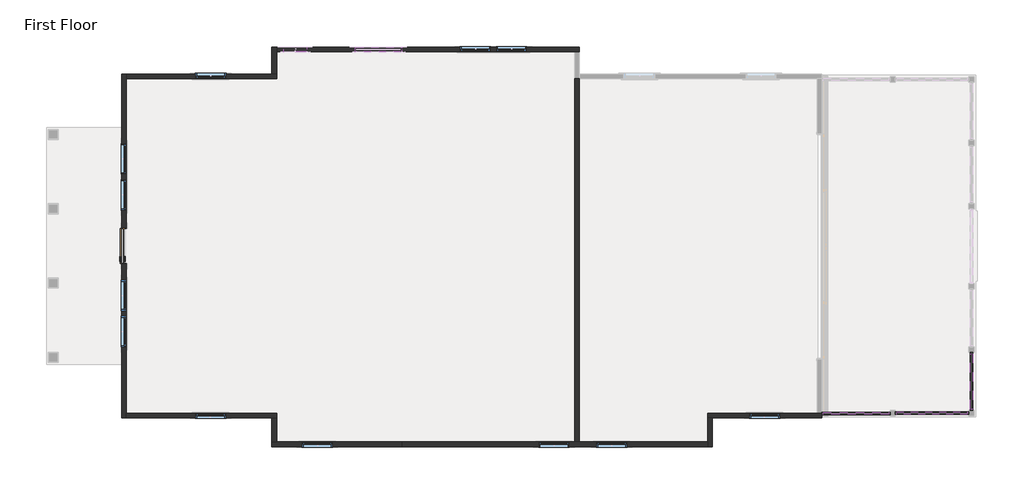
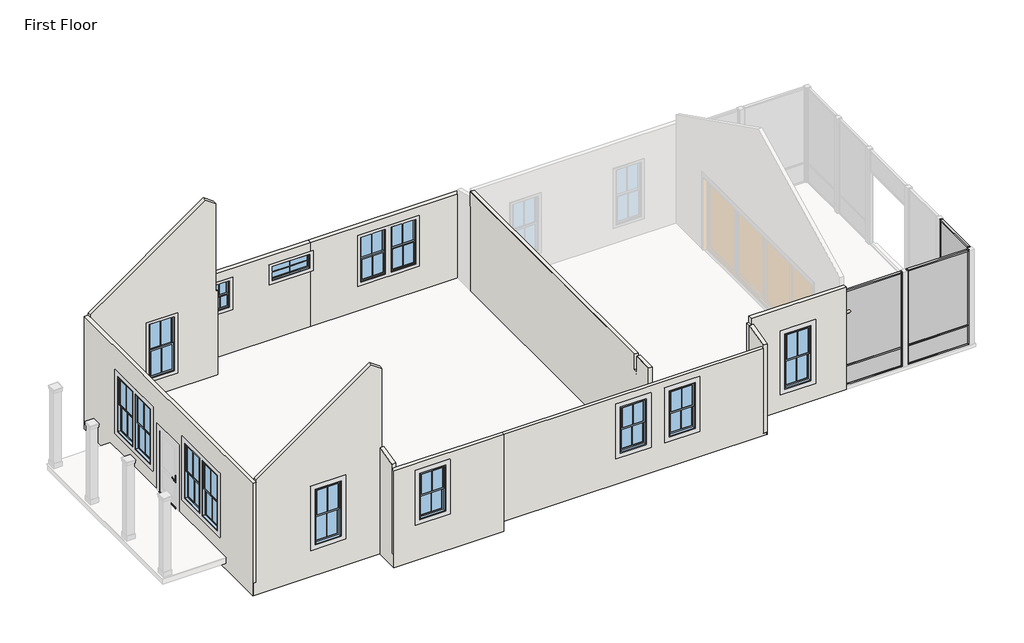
# One storey, part 1 of 3: 21 members, 14 windows, 12 walls, 6 plates, 1 door.
"""IFC4 building model written with IfcOpenShell, lengths in millimetres."""

from ifc_helpers import new_model, si_unit, origin, place, context, project, spatial, faceted_brep, transform, mapped, element, save
from components import door_exterior_shared_slab_3068_cdd7a35b, rectangular_mullion_screen_frame_f38c08a8, rectangular_mullion_screen_frame_8d831df1, rectangular_mullion_screen_frame_511fec39, rectangular_mullion_screen_frame_f99cffb0, rectangular_mullion_screen_frame_c8940eb0, rectangular_mullion_screen_frame_2fc61970, rectangular_mullion_screen_frame_7cee8ea0, rectangular_mullion_screen_frame_e9f309df, system_panel_screen_9b5d54dd, system_panel_screen_150f36fd, system_panel_screen_4a7d9bef, system_panel_screen_32642744, system_panel_screen_d6b4d12b, system_panel_screen_7c602fd6, window_fixed_w_trim_4018_577f739d, window_single_hung_2030_9b69fde6, window_single_hung_2850_d8c76df1, window_single_hung_2860_a2395dbf

model = new_model("IFC4")

# Units and contexts
model_context = context("Model", 3, world=origin())
ifc_project = project(units=[si_unit("LENGTHUNIT", "METRE", prefix="MILLI")], contexts=[model_context])

# Site, building, storey
site = spatial("IfcSite", under=ifc_project)
building = spatial("IfcBuilding", under=site)
storey = spatial("IfcBuildingStorey", under=building, Name="First Floor", Elevation=0.0)

# Door
placement = place(None, origin())
door_exterior_shared_slab_3068_shape = door_exterior_shared_slab_3068_cdd7a35b(model_context)
element("IfcDoor", 1, ObjectType="Door-Exterior-Shared Slab : 3068", at=placement, inside=storey, context=model_context, shape_type="MappedRepresentation", body=[
    mapped(door_exterior_shared_slab_3068_shape, transform((5220.8670833, 10722.6499284, 0.0), x_axis=(0.0, -1.0, 0.0), y_axis=(1.0, 0.0, 0.0), z_axis=(0.0, 0.0, 1.0))),
])

# Members
rectangular_mullion_screen_frame_shape = rectangular_mullion_screen_frame_f38c08a8(model_context)
element("IfcMember", 2, ObjectType="Rectangular Mullion : Screen Frame", at=placement, inside=storey, context=model_context, shape_type="MappedRepresentation", body=[
    mapped(rectangular_mullion_screen_frame_shape, transform((27482.4811833, 6303.0499284, 3117.85), x_axis=(0.0, 0.0, 1.0), y_axis=(0.0, -1.0, 0.0), z_axis=(1.0, 0.0, 0.0))),
])
element("IfcMember", 3, ObjectType="Rectangular Mullion : Screen Frame", at=placement, inside=storey, context=model_context, shape_type="MappedRepresentation", body=[
    mapped(rectangular_mullion_screen_frame_shape, transform((25623.9123833, 6303.0499284, 0.0), x_axis=(0.0, 0.0, -1.0), y_axis=(0.0, -1.0, 0.0), z_axis=(-1.0, 0.0, 0.0))),
])
rectangular_mullion_screen_frame_2_shape = rectangular_mullion_screen_frame_8d831df1(model_context)
element("IfcMember", 4, ObjectType="Rectangular Mullion : Screen Frame", at=placement, inside=storey, context=model_context, shape_type="MappedRepresentation", body=[
    mapped(rectangular_mullion_screen_frame_2_shape, transform((27590.4311833, 7871.4999284, 3117.85), x_axis=(0.0, 0.0, 1.0), y_axis=(1.0, 0.0, 0.0), z_axis=(0.0, 1.0, 0.0))),
])
element("IfcMember", 5, ObjectType="Rectangular Mullion : Screen Frame", at=placement, inside=storey, context=model_context, shape_type="MappedRepresentation", body=[
    mapped(rectangular_mullion_screen_frame_2_shape, transform((27590.4311833, 6410.9999284, 0.0), x_axis=(0.0, 0.0, -1.0), y_axis=(1.0, 0.0, 0.0), z_axis=(0.0, -1.0, 0.0))),
])
rectangular_mullion_screen_frame_3_shape = rectangular_mullion_screen_frame_511fec39(model_context)
element("IfcMember", 6, ObjectType="Rectangular Mullion : Screen Frame", at=placement, inside=storey, context=model_context, shape_type="MappedRepresentation", body=[
    mapped(rectangular_mullion_screen_frame_3_shape, transform((25408.0123833, 6298.2874284, 3117.85), x_axis=(0.0, 0.0, 1.0), y_axis=(0.0, -1.0, 0.0), z_axis=(1.0, 0.0, 0.0))),
])
element("IfcMember", 7, ObjectType="Rectangular Mullion : Screen Frame", at=placement, inside=storey, context=model_context, shape_type="MappedRepresentation", body=[
    mapped(rectangular_mullion_screen_frame_3_shape, transform((23680.3170833, 6298.2874284, 0.0), x_axis=(0.0, 0.0, -1.0), y_axis=(0.0, -1.0, 0.0), z_axis=(-1.0, 0.0, 0.0))),
])
rectangular_mullion_screen_frame_4_shape = rectangular_mullion_screen_frame_f99cffb0(model_context)
element("IfcMember", 8, ObjectType="Rectangular Mullion : Screen Frame", at=placement, inside=storey, context=model_context, shape_type="MappedRepresentation", body=[
    mapped(rectangular_mullion_screen_frame_4_shape, transform((27590.4311833, 7871.4999284, 632.46), x_axis=(0.0, 0.0, 1.0), y_axis=(1.0, 0.0, 0.0), z_axis=(0.0, 1.0, 0.0))),
])
rectangular_mullion_screen_frame_5_shape = rectangular_mullion_screen_frame_c8940eb0(model_context)
element("IfcMember", 9, ObjectType="Rectangular Mullion : Screen Frame", at=placement, inside=storey, context=model_context, shape_type="MappedRepresentation", body=[
    mapped(rectangular_mullion_screen_frame_5_shape, transform((25446.1123833, 6298.2874284, 0.0), x_axis=(1.0, 0.0, 0.0), y_axis=(0.0, -1.0, 0.0), z_axis=(0.0, 0.0, -1.0))),
])
element("IfcMember", 10, ObjectType="Rectangular Mullion : Screen Frame", at=placement, inside=storey, context=model_context, shape_type="MappedRepresentation", body=[
    mapped(rectangular_mullion_screen_frame_5_shape, transform((27520.5811833, 6303.0499284, 0.0), x_axis=(1.0, 0.0, 0.0), y_axis=(0.0, -1.0, 0.0), z_axis=(0.0, 0.0, -1.0))),
])
element("IfcMember", 11, ObjectType="Rectangular Mullion : Screen Frame", at=placement, inside=storey, context=model_context, shape_type="MappedRepresentation", body=[
    mapped(rectangular_mullion_screen_frame_5_shape, transform((27590.4311833, 7909.5999284, 0.0), x_axis=(0.0, 1.0, 0.0), y_axis=(1.0, 0.0, 0.0), z_axis=(0.0, 0.0, -1.0))),
])
rectangular_mullion_screen_frame_6_shape = rectangular_mullion_screen_frame_2fc61970(model_context)
element("IfcMember", 12, ObjectType="Rectangular Mullion : Screen Frame", at=placement, inside=storey, context=model_context, shape_type="MappedRepresentation", body=[
    mapped(rectangular_mullion_screen_frame_6_shape, transform((23642.2170833, 6298.2874284, 3117.85), x_axis=(-1.0, 0.0, 0.0), y_axis=(0.0, -1.0, 0.0), z_axis=(0.0, 0.0, 1.0))),
])
element("IfcMember", 13, ObjectType="Rectangular Mullion : Screen Frame", at=placement, inside=storey, context=model_context, shape_type="MappedRepresentation", body=[
    mapped(rectangular_mullion_screen_frame_6_shape, transform((25585.8123833, 6303.0499284, 3117.85), x_axis=(-1.0, 0.0, 0.0), y_axis=(0.0, -1.0, 0.0), z_axis=(0.0, 0.0, 1.0))),
])
element("IfcMember", 14, ObjectType="Rectangular Mullion : Screen Frame", at=placement, inside=storey, context=model_context, shape_type="MappedRepresentation", body=[
    mapped(rectangular_mullion_screen_frame_6_shape, transform((27590.4311833, 6372.8999284, 3117.85), x_axis=(0.0, -1.0, 0.0), y_axis=(1.0, 0.0, 0.0), z_axis=(0.0, 0.0, 1.0))),
])
element("IfcMember", 15, ObjectType="Rectangular Mullion : Screen Frame", at=placement, inside=storey, context=model_context, shape_type="MappedRepresentation", body=[
    mapped(rectangular_mullion_screen_frame_6_shape, transform((27590.4311833, 7909.5999284, 632.46), x_axis=(0.0, 1.0, 0.0), y_axis=(1.0, 0.0, 0.0), z_axis=(0.0, 0.0, -1.0))),
])
element("IfcMember", 16, ObjectType="Rectangular Mullion : Screen Frame", at=placement, inside=storey, context=model_context, shape_type="MappedRepresentation", body=[
    mapped(rectangular_mullion_screen_frame_6_shape, transform((27520.5811833, 6303.0499284, 632.46), x_axis=(1.0, 0.0, 0.0), y_axis=(0.0, -1.0, 0.0), z_axis=(0.0, 0.0, -1.0))),
])
element("IfcMember", 17, ObjectType="Rectangular Mullion : Screen Frame", at=placement, inside=storey, context=model_context, shape_type="MappedRepresentation", body=[
    mapped(rectangular_mullion_screen_frame_6_shape, transform((25446.1123833, 6298.2874284, 632.46), x_axis=(1.0, 0.0, 0.0), y_axis=(0.0, -1.0, 0.0), z_axis=(0.0, 0.0, -1.0))),
])
element("IfcMember", 18, ObjectType="Rectangular Mullion : Screen Frame", at=placement, inside=storey, context=model_context, shape_type="MappedRepresentation", body=[
    mapped(rectangular_mullion_screen_frame_5_shape, transform((27590.4311833, 6372.8999284, 632.46), x_axis=(0.0, -1.0, 0.0), y_axis=(1.0, 0.0, 0.0), z_axis=(0.0, 0.0, 1.0))),
])
element("IfcMember", 19, ObjectType="Rectangular Mullion : Screen Frame", at=placement, inside=storey, context=model_context, shape_type="MappedRepresentation", body=[
    mapped(rectangular_mullion_screen_frame_5_shape, transform((25585.8123833, 6303.0499284, 632.46), x_axis=(-1.0, 0.0, 0.0), y_axis=(0.0, -1.0, 0.0), z_axis=(0.0, 0.0, 1.0))),
])
element("IfcMember", 20, ObjectType="Rectangular Mullion : Screen Frame", at=placement, inside=storey, context=model_context, shape_type="MappedRepresentation", body=[
    mapped(rectangular_mullion_screen_frame_5_shape, transform((23642.2170833, 6298.2874284, 632.46), x_axis=(-1.0, 0.0, 0.0), y_axis=(0.0, -1.0, 0.0), z_axis=(0.0, 0.0, 1.0))),
])
rectangular_mullion_screen_frame_7_shape = rectangular_mullion_screen_frame_7cee8ea0(model_context)
element("IfcMember", 21, ObjectType="Rectangular Mullion : Screen Frame", at=placement, inside=storey, context=model_context, shape_type="MappedRepresentation", body=[
    mapped(rectangular_mullion_screen_frame_7_shape, transform((27482.4811833, 6303.0499284, 632.46), x_axis=(0.0, 0.0, 1.0), y_axis=(0.0, -1.0, 0.0), z_axis=(1.0, 0.0, 0.0))),
])
rectangular_mullion_screen_frame_8_shape = rectangular_mullion_screen_frame_e9f309df(model_context)
element("IfcMember", 22, ObjectType="Rectangular Mullion : Screen Frame", at=placement, inside=storey, context=model_context, shape_type="MappedRepresentation", body=[
    mapped(rectangular_mullion_screen_frame_8_shape, transform((25408.0123833, 6298.2874284, 632.46), x_axis=(0.0, 0.0, 1.0), y_axis=(0.0, -1.0, 0.0), z_axis=(1.0, 0.0, 0.0))),
])

# Plates
system_panel_screen_shape = system_panel_screen_9b5d54dd(model_context)
element("IfcPlate", 23, ObjectType="System Panel : Screen", at=placement, inside=storey, context=model_context, shape_type="MappedRepresentation", body=[
    mapped(system_panel_screen_shape, transform((27590.4311833, 7141.2499284, 38.1), x_axis=(0.0, 1.0, 0.0), y_axis=(-1.0, 0.0, 0.0), z_axis=(0.0, 0.0, 1.0))),
])
system_panel_screen_2_shape = system_panel_screen_150f36fd(model_context)
element("IfcPlate", 24, ObjectType="System Panel : Screen", at=placement, inside=storey, context=model_context, shape_type="MappedRepresentation", body=[
    mapped(system_panel_screen_2_shape, transform((27590.4311833, 7141.2499284, 651.51), x_axis=(0.0, 1.0, 0.0), y_axis=(-1.0, 0.0, 0.0), z_axis=(0.0, 0.0, 1.0))),
])
system_panel_screen_3_shape = system_panel_screen_4a7d9bef(model_context)
element("IfcPlate", 25, ObjectType="System Panel : Screen", at=placement, inside=storey, context=model_context, shape_type="MappedRepresentation", body=[
    mapped(system_panel_screen_3_shape, transform((24544.1647333, 6298.2874284, 38.1), x_axis=(1.0, 0.0, 0.0), y_axis=(0.0, 1.0, 0.0), z_axis=(0.0, 0.0, 1.0))),
])
system_panel_screen_4_shape = system_panel_screen_32642744(model_context)
element("IfcPlate", 26, ObjectType="System Panel : Screen", at=placement, inside=storey, context=model_context, shape_type="MappedRepresentation", body=[
    mapped(system_panel_screen_4_shape, transform((24544.1647333, 6298.2874284, 651.51), x_axis=(1.0, 0.0, 0.0), y_axis=(0.0, 1.0, 0.0), z_axis=(0.0, 0.0, 1.0))),
])
system_panel_screen_5_shape = system_panel_screen_d6b4d12b(model_context)
element("IfcPlate", 27, ObjectType="System Panel : Screen", at=placement, inside=storey, context=model_context, shape_type="MappedRepresentation", body=[
    mapped(system_panel_screen_5_shape, transform((26553.1967833, 6303.0499284, 38.1), x_axis=(1.0, 0.0, 0.0), y_axis=(0.0, 1.0, 0.0), z_axis=(0.0, 0.0, 1.0))),
])
system_panel_screen_6_shape = system_panel_screen_7c602fd6(model_context)
element("IfcPlate", 28, ObjectType="System Panel : Screen", at=placement, inside=storey, context=model_context, shape_type="MappedRepresentation", body=[
    mapped(system_panel_screen_6_shape, transform((26553.1967833, 6303.0499284, 651.51), x_axis=(1.0, 0.0, 0.0), y_axis=(0.0, 1.0, 0.0), z_axis=(0.0, 0.0, 1.0))),
])

# Walls
element("IfcWall", 29, ObjectType="Exterior 4” Hardie", at=placement, inside=storey, context=model_context, shape_type="Brep", body=[
    faceted_brep([(5284.3670833, 15262.8999284, 3302.0), (5284.3670833, 6182.3999284, 3302.0), (5284.3670833, 6182.3999284, 0.0), (5284.3670833, 6303.0499284, 0.0), (5284.3670833, 10240.0499284, 0.0), (5284.3670833, 10240.0499284, 2057.4), (5284.3670833, 11205.2499284, 2057.4), (5284.3670833, 11205.2499284, 0.0), (5284.3670833, 15142.2499284, 0.0), (5284.3670833, 15262.8999284, 0.0), (5284.3670833, 11663.7707284, 2438.4), (5284.3670833, 12476.5707284, 2438.4), (5284.3670833, 12476.5707284, 609.6), (5284.3670833, 11663.7707284, 609.6), (5284.3670833, 12616.2707284, 2438.4), (5284.3670833, 13429.0707284, 2438.4), (5284.3670833, 13429.0707284, 609.6), (5284.3670833, 12616.2707284, 609.6), (5284.3670833, 9007.2355284, 2438.4), (5284.3670833, 9820.0355284, 2438.4), (5284.3670833, 9820.0355284, 609.6), (5284.3670833, 9007.2355284, 609.6), (5284.3670833, 8054.7355284, 2438.4), (5284.3670833, 8867.5355284, 2438.4), (5284.3670833, 8867.5355284, 609.6), (5284.3670833, 8054.7355284, 609.6), (5163.7170833, 6182.3999284, 3302.0), (5163.7170833, 15262.8999284, 3302.0), (5163.7170833, 15262.8999284, -406.4), (5163.7170833, 6182.3999284, -406.4), (5163.7170833, 10240.0499284, 2057.4), (5163.7170833, 10240.0499284, 0.0), (5163.7170833, 11205.2499284, 0.0), (5163.7170833, 11205.2499284, 2057.4), (5163.7170833, 11663.7707284, 2438.4), (5163.7170833, 11663.7707284, 609.6), (5163.7170833, 12476.5707284, 609.6), (5163.7170833, 12476.5707284, 2438.4), (5163.7170833, 12616.2707284, 2438.4), (5163.7170833, 12616.2707284, 609.6), (5163.7170833, 13429.0707284, 609.6), (5163.7170833, 13429.0707284, 2438.4), (5163.7170833, 9007.2355284, 2438.4), (5163.7170833, 9007.2355284, 609.6), (5163.7170833, 9820.0355284, 609.6), (5163.7170833, 9820.0355284, 2438.4), (5163.7170833, 8054.7355284, 2438.4), (5163.7170833, 8054.7355284, 609.6), (5163.7170833, 8867.5355284, 609.6), (5163.7170833, 8867.5355284, 2438.4), (5182.7670833, 6182.3999284, 0.0), (5182.7670833, 6201.4499284, 0.0), (5182.7670833, 10240.0499284, 0.0), (5182.7670833, 15262.8999284, 0.0), (5182.7670833, 11205.2499284, 0.0), (5182.7670833, 15243.8499284, 0.0), (5182.7670833, 6182.3999284, -406.4), (5182.7670833, 6201.4499284, -406.4), (5182.7670833, 15243.8499284, -406.4), (5182.7670833, 15262.8999284, -406.4)], [[[0, 1, 2, 3, 4, 5, 6, 7, 8, 9], [10, 11, 12, 13], [14, 15, 16, 17], [18, 19, 20, 21], [22, 23, 24, 25]], [[26, 27, 28, 29], [30, 31, 32, 33], [34, 35, 36, 37], [38, 39, 40, 41], [42, 43, 44, 45], [46, 47, 48, 49]], [[1, 0, 27, 26]], [[2, 50, 51, 52, 4, 3]], [[53, 9, 8, 7, 54, 55]], [[56, 57, 58, 59, 53, 55, 54, 52, 51, 50]], [[0, 9, 53, 59, 28, 27]], [[2, 1, 26, 29, 56, 50]], [[29, 28, 59, 58, 57, 56]], [[52, 31, 30, 5, 4]], [[5, 30, 33, 6]], [[6, 33, 32, 54, 7]], [[31, 52, 54, 32]], [[35, 34, 10, 13]], [[36, 35, 13, 12]], [[37, 36, 12, 11]], [[34, 37, 11, 10]], [[39, 38, 14, 17]], [[40, 39, 17, 16]], [[41, 40, 16, 15]], [[38, 41, 15, 14]], [[43, 42, 18, 21]], [[44, 43, 21, 20]], [[45, 44, 20, 19]], [[42, 45, 19, 18]], [[47, 46, 22, 25]], [[48, 47, 25, 24]], [[49, 48, 24, 23]], [[46, 49, 23, 22]]]),
])
element("IfcWall", 30, ObjectType="Exterior 4” Hardie", at=placement, inside=storey, context=model_context, shape_type="Brep", body=[
    faceted_brep([(5284.3670833, 15142.2499284, 0.0), (9246.7670833, 15142.2499284, 0.0), (9246.7670833, 15142.2499284, 2794.0), (9186.4420833, 15142.2499284, 2794.0), (9186.4420833, 15142.2499284, 3081.3375), (9186.4420833, 15142.2499284, 5683.646875), (8865.7670833, 15142.2499284, 5910.7916667), (5284.3670833, 15142.2499284, 3373.9666667), (7103.6420833, 15142.2499284, 2438.4), (7916.4420833, 15142.2499284, 2438.4), (7916.4420833, 15142.2499284, 609.6), (7103.6420833, 15142.2499284, 609.6), (9186.4420833, 15262.8999284, 5683.646875), (9186.4420833, 15262.8999284, 3081.3375), (9186.4420833, 15262.8999284, 2794.0), (9246.7670833, 15262.8999284, 2794.0), (9246.7670833, 15262.8999284, 2717.8), (9246.7670833, 15262.8999284, 0.0), (9145.1670833, 15262.8999284, 0.0), (9145.1670833, 15262.8999284, -406.4), (9126.1170833, 15262.8999284, -406.4), (5182.7670833, 15262.8999284, -406.4), (5182.7670833, 15262.8999284, 0.0), (5284.3670833, 15262.8999284, 0.0), (5284.3670833, 15262.8999284, 3302.0), (5284.3670833, 15262.8999284, 3373.9666667), (8865.7670833, 15262.8999284, 5910.7916667), (7103.6420833, 15262.8999284, 2438.4), (7103.6420833, 15262.8999284, 609.6), (7916.4420833, 15262.8999284, 609.6), (7916.4420833, 15262.8999284, 2438.4), (5284.3670833, 15243.8499284, 0.0), (9145.1670833, 15243.8499284, 0.0), (5182.7670833, 15243.8499284, 0.0), (5182.7670833, 15243.8499284, -406.4), (9145.1670833, 15243.8499284, -406.4)], [[[0, 1, 2, 3, 4, 5, 6, 7], [8, 9, 10, 11]], [[12, 13, 14, 15, 16, 17, 18, 19, 20, 21, 22, 23, 24, 25, 26], [27, 28, 29, 30]], [[1, 0, 31, 32, 18, 17]], [[32, 31, 33, 34, 35]], [[0, 7, 25, 24, 23, 31]], [[21, 20, 19, 35, 34]], [[33, 31, 23, 22]], [[21, 34, 33, 22]], [[12, 5, 4, 3, 14, 13]], [[14, 3, 2, 15]], [[2, 1, 17, 16, 15]], [[18, 32, 35, 19]], [[25, 7, 6, 26]], [[5, 12, 26, 6]], [[28, 27, 8, 11]], [[29, 28, 11, 10]], [[30, 29, 10, 9]], [[27, 30, 9, 8]]]),
])
element("IfcWall", 31, ObjectType="Exterior 4” Hardie", at=placement, inside=storey, context=model_context, shape_type="Brep", body=[
    faceted_brep([(9246.7670833, 15262.8999284, 0.0), (9246.7670833, 15853.4499284, 0.0), (9246.7670833, 15974.0999284, 0.0), (9246.7670833, 15974.0999284, 2794.0), (9246.7670833, 15974.0999284, 2903.5375), (9246.7670833, 15262.8999284, 3081.3375), (9246.7670833, 15262.8999284, 2794.0), (9126.1170833, 15262.8999284, -406.4), (9126.1170833, 15262.8999284, 3081.3375), (9126.1170833, 15974.0999284, 2903.5375), (9126.1170833, 15974.0999284, -406.4), (9145.1670833, 15262.8999284, 0.0), (9145.1670833, 15955.0499284, 0.0), (9145.1670833, 15974.0999284, 0.0), (9145.1670833, 15262.8999284, -406.4), (9145.1670833, 15955.0499284, -406.4), (9145.1670833, 15974.0999284, -406.4)], [[[0, 1, 2, 3, 4, 5, 6]], [[7, 8, 9, 10]], [[2, 1, 0, 11, 12, 13]], [[13, 12, 11, 14, 15, 16]], [[0, 6, 5, 8, 7, 14, 11]], [[14, 7, 10, 16, 15]], [[4, 3, 2, 13, 16, 10, 9]], [[5, 4, 9, 8]]]),
])
element("IfcWall", 32, ObjectType="Exterior 4” Hardie", at=placement, inside=storey, context=model_context, shape_type="Brep", body=[
    faceted_brep([(9246.7670833, 15853.4499284, 0.0), (12548.7670833, 15853.4499284, 0.0), (12548.7670833, 15853.4499284, 1930.4), (11332.0054833, 15853.4499284, 1930.4), (11332.0054833, 15853.4499284, 2438.4), (12548.7670833, 15853.4499284, 2438.4), (12548.7670833, 15853.4499284, 2794.0), (9246.7670833, 15853.4499284, 2794.0), (9438.2068833, 15853.4499284, 1524.0), (9438.2068833, 15853.4499284, 2438.4), (10047.8068833, 15853.4499284, 2438.4), (10047.8068833, 15853.4499284, 1524.0), (9246.7670833, 15974.0999284, 2794.0), (12548.7670833, 15974.0999284, 2794.0), (12548.7670833, 15974.0999284, 2438.4), (11332.0054833, 15974.0999284, 2438.4), (11332.0054833, 15974.0999284, 1930.4), (12548.7670833, 15974.0999284, 1930.4), (12548.7670833, 15974.0999284, -76.2), (12548.7670833, 15974.0999284, -406.4), (9145.1670833, 15974.0999284, -406.4), (9145.1670833, 15974.0999284, 0.0), (9246.7670833, 15974.0999284, 0.0), (9438.2068833, 15974.0999284, 2438.4), (9438.2068833, 15974.0999284, 1524.0), (10047.8068833, 15974.0999284, 1524.0), (10047.8068833, 15974.0999284, 2438.4), (12548.7670833, 15955.0499284, 0.0), (12548.7670833, 15955.0499284, -76.2), (12548.7670833, 15955.0499284, -406.4), (9246.7670833, 15955.0499284, 0.0), (9145.1670833, 15955.0499284, 0.0), (9145.1670833, 15955.0499284, -406.4)], [[[0, 1, 2, 3, 4, 5, 6, 7], [8, 9, 10, 11]], [[12, 13, 14, 15, 16, 17, 18, 19, 20, 21, 22], [23, 24, 25, 26]], [[1, 27, 28, 29, 19, 18, 17, 2]], [[13, 6, 5, 14]], [[7, 6, 13, 12]], [[1, 0, 30, 27]], [[27, 30, 31, 32, 29, 28]], [[0, 7, 12, 22, 30]], [[19, 29, 32, 20]], [[31, 30, 22, 21]], [[20, 32, 31, 21]], [[23, 9, 8, 24]], [[24, 8, 11, 25]], [[25, 11, 10, 26]], [[9, 23, 26, 10]], [[16, 3, 2, 17]], [[3, 16, 15, 4]], [[4, 15, 14, 5]]]),
])
element("IfcWall", 33, ObjectType="Exterior 4” Hardie", at=placement, inside=storey, context=model_context, shape_type="Brep", body=[
    faceted_brep([(23642.2170833, 6303.0499284, 0.0), (23521.5670833, 6303.0499284, 0.0), (20625.9670833, 6303.0499284, 0.0), (20625.9670833, 6303.0499284, 2794.0), (20625.9670833, 6303.0499284, 3094.0375), (20686.2920833, 6303.0499284, 3094.0375), (20686.2920833, 6303.0499284, 3302.0), (23642.2170833, 6303.0499284, 3302.0), (22540.4920833, 6303.0499284, 2438.4), (21727.6920833, 6303.0499284, 2438.4), (21727.6920833, 6303.0499284, 609.6), (22540.4920833, 6303.0499284, 609.6), (23642.2170833, 6182.3999284, 3302.0), (20686.2920833, 6182.3999284, 3302.0), (20686.2920833, 6182.3999284, 3094.0375), (20625.9670833, 6182.3999284, 3094.0375), (20625.9670833, 6182.3999284, 2717.8), (20625.9670833, 6182.3999284, 0.0), (20727.5670833, 6182.3999284, 0.0), (20727.5670833, 6182.3999284, -76.2), (20746.6170833, 6182.3999284, -76.2), (23642.2170833, 6182.3999284, -76.2), (22540.4920833, 6182.3999284, 2438.4), (22540.4920833, 6182.3999284, 609.6), (21727.6920833, 6182.3999284, 609.6), (21727.6920833, 6182.3999284, 2438.4), (23642.2170833, 6201.4499284, 0.0), (20727.5670833, 6201.4499284, 0.0), (23642.2170833, 6201.4499284, -76.2), (20727.5670833, 6201.4499284, -76.2)], [[[0, 1, 2, 3, 4, 5, 6, 7], [8, 9, 10, 11]], [[12, 13, 14, 15, 16, 17, 18, 19, 20, 21], [22, 23, 24, 25]], [[7, 6, 13, 12]], [[2, 1, 0, 26, 27, 18, 17]], [[26, 28, 29, 27]], [[0, 7, 12, 21, 28, 26]], [[28, 21, 20, 19, 29]], [[13, 6, 5, 14]], [[14, 5, 4, 15]], [[15, 4, 3, 2, 17, 16]], [[18, 27, 29, 19]], [[23, 22, 8, 11]], [[24, 23, 11, 10]], [[25, 24, 10, 9]], [[22, 25, 9, 8]]]),
])
element("IfcWall", 34, ObjectType="Exterior 4” Hardie", at=placement, inside=storey, context=model_context, shape_type="Brep", body=[
    faceted_brep([(20625.9670833, 6182.3999284, 0.0), (20625.9670833, 5541.0499284, 0.0), (20625.9670833, 5420.3999284, 0.0), (20625.9670833, 5420.3999284, 2794.0), (20625.9670833, 5420.3999284, 2903.5375), (20625.9670833, 6182.3999284, 3094.0375), (20746.6170833, 6182.3999284, -76.2), (20746.6170833, 6182.3999284, 3094.0375), (20746.6170833, 5420.3999284, 2903.5375), (20746.6170833, 5420.3999284, -76.2), (20727.5670833, 6182.3999284, 0.0), (20727.5670833, 5439.4499284, 0.0), (20727.5670833, 5420.3999284, 0.0), (20727.5670833, 6182.3999284, -76.2), (20727.5670833, 5439.4499284, -76.2), (20727.5670833, 5420.3999284, -76.2)], [[[0, 1, 2, 3, 4, 5]], [[6, 7, 8, 9]], [[2, 1, 0, 10, 11, 12]], [[12, 11, 10, 13, 14, 15]], [[0, 5, 7, 6, 13, 10]], [[13, 6, 9, 15, 14]], [[4, 3, 2, 12, 15, 9, 8]], [[5, 4, 8, 7]]]),
])
element("IfcWall", 35, ObjectType="Exterior 4” Hardie", at=placement, inside=storey, context=model_context, shape_type="Brep", body=[
    faceted_brep([(20625.9670833, 5541.0499284, 0.0), (17235.0670833, 5541.0499284, 0.0), (17120.7670833, 5541.0499284, 0.0), (12548.7670833, 5541.0499284, 0.0), (12548.7670833, 5541.0499284, 2794.0), (20625.9670833, 5541.0499284, 2794.0), (18501.8920833, 5541.0499284, 2438.4), (17689.0920833, 5541.0499284, 2438.4), (17689.0920833, 5541.0499284, 914.4), (18501.8920833, 5541.0499284, 914.4), (16978.5016833, 5541.0499284, 2438.4), (16165.7016833, 5541.0499284, 2438.4), (16165.7016833, 5541.0499284, 914.4), (16978.5016833, 5541.0499284, 914.4), (12548.7670833, 5420.3999284, 2794.0), (12548.7670833, 5420.3999284, -76.2), (20727.5670833, 5420.3999284, -76.2), (20727.5670833, 5420.3999284, 0.0), (20625.9670833, 5420.3999284, 0.0), (20625.9670833, 5420.3999284, 2794.0), (18501.8920833, 5420.3999284, 2438.4), (18501.8920833, 5420.3999284, 914.4), (17689.0920833, 5420.3999284, 914.4), (17689.0920833, 5420.3999284, 2438.4), (16978.5016833, 5420.3999284, 2438.4), (16978.5016833, 5420.3999284, 914.4), (16165.7016833, 5420.3999284, 914.4), (16165.7016833, 5420.3999284, 2438.4), (12548.7670833, 5439.4499284, 0.0), (12548.7670833, 5439.4499284, -76.2), (20625.9670833, 5439.4499284, 0.0), (20727.5670833, 5439.4499284, 0.0), (20727.5670833, 5439.4499284, -76.2)], [[[0, 1, 2, 3, 4, 5], [6, 7, 8, 9], [10, 11, 12, 13]], [[14, 15, 16, 17, 18, 19], [20, 21, 22, 23], [24, 25, 26, 27]], [[4, 3, 28, 29, 15, 14]], [[5, 4, 14, 19]], [[3, 2, 1, 0, 30, 28]], [[28, 30, 31, 32, 29]], [[0, 5, 19, 18, 30]], [[16, 15, 29, 32]], [[31, 30, 18, 17]], [[16, 32, 31, 17]], [[21, 20, 6, 9]], [[22, 21, 9, 8]], [[23, 22, 8, 7]], [[20, 23, 7, 6]], [[25, 24, 10, 13]], [[26, 25, 13, 12]], [[27, 26, 12, 11]], [[24, 27, 11, 10]]]),
])
element("IfcWall", 36, ObjectType="Exterior 4” Hardie", at=placement, inside=storey, context=model_context, shape_type="Brep", body=[
    faceted_brep([(9246.7670833, 5541.0499284, 0.0), (9246.7670833, 6182.3999284, 0.0), (9246.7670833, 6182.3999284, 2794.0), (9246.7670833, 6182.3999284, 3094.0375), (9246.7670833, 5541.0499284, 2933.7), (9126.1170833, 6182.3999284, 3094.0375), (9126.1170833, 6182.3999284, -406.4), (9126.1170833, 5439.4499284, -406.4), (9126.1170833, 5439.4499284, 0.0), (9126.1170833, 5541.0499284, 0.0), (9126.1170833, 5541.0499284, 2794.0), (9126.1170833, 5541.0499284, 2933.7), (9145.1670833, 5541.0499284, 0.0), (9145.1670833, 6182.3999284, 0.0), (9145.1670833, 5439.4499284, 0.0), (9145.1670833, 5439.4499284, -406.4), (9145.1670833, 6182.3999284, -406.4)], [[[0, 1, 2, 3, 4]], [[5, 6, 7, 8, 9, 10, 11]], [[1, 0, 12, 13]], [[13, 12, 14, 15, 16]], [[0, 4, 11, 10, 9, 12]], [[7, 6, 16, 15]], [[14, 12, 9, 8]], [[7, 15, 14, 8]], [[3, 2, 1, 13, 16, 6, 5]], [[4, 3, 5, 11]]]),
])
element("IfcWall", 37, ObjectType="Exterior 4” Hardie", at=placement, inside=storey, context=model_context, shape_type="Brep", body=[
    faceted_brep([(9246.7670833, 6303.0499284, 0.0), (5284.3670833, 6303.0499284, 0.0), (5284.3670833, 6303.0499284, 3373.9666667), (8865.7670833, 6303.0499284, 5910.7916667), (9186.4420833, 6303.0499284, 5683.646875), (9186.4420833, 6303.0499284, 3094.0375), (9186.4420833, 6303.0499284, 2794.0), (9246.7670833, 6303.0499284, 2794.0), (7916.4420833, 6303.0499284, 2438.4), (7103.6420833, 6303.0499284, 2438.4), (7103.6420833, 6303.0499284, 609.6), (7916.4420833, 6303.0499284, 609.6), (9186.4420833, 6182.3999284, 2794.0), (9186.4420833, 6182.3999284, 3094.0375), (9186.4420833, 6182.3999284, 5683.646875), (8865.7670833, 6182.3999284, 5910.7916667), (5284.3670833, 6182.3999284, 3373.9666667), (5284.3670833, 6182.3999284, 3302.0), (5284.3670833, 6182.3999284, 0.0), (5182.7670833, 6182.3999284, 0.0), (5182.7670833, 6182.3999284, -406.4), (9126.1170833, 6182.3999284, -406.4), (9145.1670833, 6182.3999284, -406.4), (9145.1670833, 6182.3999284, 0.0), (9246.7670833, 6182.3999284, 0.0), (9246.7670833, 6182.3999284, 2717.8), (9246.7670833, 6182.3999284, 2794.0), (7916.4420833, 6182.3999284, 2438.4), (7916.4420833, 6182.3999284, 609.6), (7103.6420833, 6182.3999284, 609.6), (7103.6420833, 6182.3999284, 2438.4), (9145.1670833, 6201.4499284, 0.0), (5284.3670833, 6201.4499284, 0.0), (5182.7670833, 6201.4499284, 0.0), (9145.1670833, 6201.4499284, -406.4), (5182.7670833, 6201.4499284, -406.4)], [[[0, 1, 2, 3, 4, 5, 6, 7], [8, 9, 10, 11]], [[12, 13, 14, 15, 16, 17, 18, 19, 20, 21, 22, 23, 24, 25, 26], [27, 28, 29, 30]], [[1, 0, 24, 23, 31, 32]], [[33, 32, 31, 34, 35]], [[2, 1, 32, 18, 17, 16]], [[19, 18, 32, 33]], [[35, 20, 19, 33]], [[20, 35, 34, 22, 21]], [[4, 14, 13, 12, 6, 5]], [[6, 12, 26, 7]], [[24, 0, 7, 26, 25]], [[31, 23, 22, 34]], [[14, 4, 3, 15]], [[2, 16, 15, 3]], [[28, 27, 8, 11]], [[29, 28, 11, 10]], [[30, 29, 10, 9]], [[27, 30, 9, 8]]]),
])
element("IfcWall", 38, ObjectType="Exterior 4” Hardie", at=placement, inside=storey, context=model_context, shape_type="Brep", body=[
    faceted_brep([(12548.7670833, 15853.4499284, 0.0), (17120.7670833, 15853.4499284, 0.0), (17241.4170833, 15853.4499284, 0.0), (17241.4170833, 15853.4499284, 2794.0), (12548.7670833, 15853.4499284, 2794.0), (12548.7670833, 15853.4499284, 2438.4), (12551.2054833, 15853.4499284, 2438.4), (12551.2054833, 15853.4499284, 1930.4), (12548.7670833, 15853.4499284, 1930.4), (14090.3438833, 15853.4499284, 914.4), (14090.3438833, 15853.4499284, 2438.4), (14903.1438833, 15853.4499284, 2438.4), (14903.1438833, 15853.4499284, 914.4), (15042.8438833, 15853.4499284, 914.4), (15042.8438833, 15853.4499284, 2438.4), (15855.6438833, 15853.4499284, 2438.4), (15855.6438833, 15853.4499284, 914.4), (12548.7670833, 15974.0999284, 2794.0), (17241.4170833, 15974.0999284, 2794.0), (17241.4170833, 15974.0999284, -76.2), (12548.7670833, 15974.0999284, -76.2), (12548.7670833, 15974.0999284, 1930.4), (12551.2054833, 15974.0999284, 1930.4), (12551.2054833, 15974.0999284, 2438.4), (12548.7670833, 15974.0999284, 2438.4), (14090.3438833, 15974.0999284, 2438.4), (14090.3438833, 15974.0999284, 914.4), (14903.1438833, 15974.0999284, 914.4), (14903.1438833, 15974.0999284, 2438.4), (15042.8438833, 15974.0999284, 2438.4), (15042.8438833, 15974.0999284, 914.4), (15855.6438833, 15974.0999284, 914.4), (15855.6438833, 15974.0999284, 2438.4), (12548.7670833, 15955.0499284, 0.0), (12548.7670833, 15955.0499284, -76.2), (17222.3670833, 15955.0499284, 0.0), (17241.4170833, 15955.0499284, 0.0), (17222.3670833, 15955.0499284, -76.2), (17241.4170833, 15955.0499284, -76.2)], [[[0, 1, 2, 3, 4, 5, 6, 7, 8], [9, 10, 11, 12], [13, 14, 15, 16]], [[17, 18, 19, 20, 21, 22, 23, 24], [25, 26, 27, 28], [29, 30, 31, 32]], [[4, 3, 18, 17]], [[4, 17, 24, 5]], [[33, 0, 8, 21, 20, 34]], [[2, 1, 0, 33, 35, 36]], [[36, 35, 33, 34, 37, 38]], [[34, 20, 19, 38, 37]], [[3, 2, 36, 38, 19, 18]], [[25, 10, 9, 26]], [[26, 9, 12, 27]], [[27, 12, 11, 28]], [[10, 25, 28, 11]], [[29, 14, 13, 30]], [[30, 13, 16, 31]], [[31, 16, 15, 32]], [[14, 29, 32, 15]], [[6, 23, 22, 7]], [[7, 22, 21, 8]], [[23, 6, 5, 24]]]),
])
element("IfcWall", 39, ObjectType="Exterior 4” Hardie", at=placement, inside=storey, context=model_context, shape_type="Brep", body=[
    faceted_brep([(12548.7670833, 5541.0499284, 0.0), (9246.7670833, 5541.0499284, 0.0), (9126.1170833, 5541.0499284, 0.0), (9126.1170833, 5541.0499284, 2794.0), (12548.7670833, 5541.0499284, 2794.0), (10729.4920833, 5541.0499284, 2438.4), (9916.6920833, 5541.0499284, 2438.4), (9916.6920833, 5541.0499284, 914.4), (10729.4920833, 5541.0499284, 914.4), (12548.7670833, 5420.3999284, -406.4), (12548.7670833, 5420.3999284, -76.2), (12548.7670833, 5420.3999284, 2794.0), (9126.1170833, 5420.3999284, 2794.0), (9126.1170833, 5420.3999284, -406.4), (10729.4920833, 5420.3999284, 2438.4), (10729.4920833, 5420.3999284, 914.4), (9916.6920833, 5420.3999284, 914.4), (9916.6920833, 5420.3999284, 2438.4), (12548.7670833, 5439.4499284, -406.4), (12548.7670833, 5439.4499284, -76.2), (12548.7670833, 5439.4499284, 0.0), (9145.1670833, 5439.4499284, 0.0), (9126.1170833, 5439.4499284, 0.0), (9145.1670833, 5439.4499284, -406.4), (9126.1170833, 5439.4499284, -406.4)], [[[0, 1, 2, 3, 4], [5, 6, 7, 8]], [[9, 10, 11, 12, 13], [14, 15, 16, 17]], [[4, 3, 12, 11]], [[0, 4, 11, 10, 9, 18, 19, 20]], [[2, 1, 0, 20, 21, 22]], [[22, 21, 20, 19, 18, 23, 24]], [[18, 9, 13, 24, 23]], [[3, 2, 22, 24, 13, 12]], [[15, 14, 5, 8]], [[16, 15, 8, 7]], [[17, 16, 7, 6]], [[14, 17, 6, 5]]]),
])
element("IfcWall", 40, ObjectType="Interior 4” Stud Wall", at=placement, inside=storey, context=model_context, shape_type="Brep", body=[
    faceted_brep([(17120.7670833, 15142.2499284, 0.0), (17120.7670833, 5541.0499284, 0.0), (17120.7670833, 5541.0499284, 3302.0), (17120.7670833, 6182.3999284, 3302.0), (17120.7670833, 6182.3999284, 2717.8), (17120.7670833, 6201.4499284, 2717.8), (17120.7670833, 6201.4499284, 2794.0), (17120.7670833, 6303.0499284, 2794.0), (17120.7670833, 6303.0499284, 3302.0), (17120.7670833, 15142.2499284, 3302.0), (17120.7670833, 15142.2499284, 2794.0), (17235.0670833, 5541.0499284, 0.0), (17235.0670833, 15142.2499284, 0.0), (17235.0670833, 15142.2499284, 3302.0), (17235.0670833, 6303.0499284, 3302.0), (17235.0670833, 6303.0499284, 2794.0), (17235.0670833, 6201.4499284, 2794.0), (17235.0670833, 6201.4499284, 2717.8), (17235.0670833, 6182.3999284, 2717.8), (17235.0670833, 6182.3999284, 3302.0), (17235.0670833, 5541.0499284, 3302.0), (17222.3670833, 15142.2499284, 0.0), (17181.0920833, 15142.2499284, 3302.0), (17177.9170833, 15142.2499284, 3302.0), (17133.4670833, 15142.2499284, 3302.0), (17133.4670833, 6303.0499284, 3302.0), (17133.4670833, 5541.0499284, 3302.0), (17133.4670833, 6182.3999284, 3302.0)], [[[0, 1, 2, 3, 4, 5, 6, 7, 8, 9, 10]], [[11, 12, 13, 14, 15, 16, 17, 18, 19, 20]], [[1, 0, 21, 12, 11]], [[13, 22, 23, 24, 25, 14]], [[26, 20, 19, 27]], [[24, 9, 8, 25]], [[2, 26, 27, 3]], [[12, 21, 0, 10, 9, 24, 23, 22, 13]], [[2, 1, 11, 20, 26]], [[7, 15, 14, 25, 8]], [[18, 4, 3, 27, 19]], [[15, 7, 6, 16]], [[5, 17, 16, 6]], [[4, 18, 17, 5]]]),
])

# Windows
window_fixed_w_trim_4018_shape = window_fixed_w_trim_4018_577f739d(model_context)
element("IfcWindow", 41, ObjectType="Window-Fixed-w-Trim : 4018", at=placement, inside=storey, context=model_context, shape_type="MappedRepresentation", body=[
    mapped(window_fixed_w_trim_4018_shape, transform((11979.7054833, 15913.7749284, 1016.0), x_axis=(1.0, 0.0, 0.0), y_axis=(0.0, 1.0, 0.0), z_axis=(0.0, 0.0, 1.0))),
])
window_single_hung_2030_shape = window_single_hung_2030_9b69fde6(model_context)
element("IfcWindow", 42, ObjectType="Window-Single-Hung : 2030", at=placement, inside=storey, context=model_context, shape_type="MappedRepresentation", body=[
    mapped(window_single_hung_2030_shape, transform((9743.0068833, 15913.7749284, 609.6), x_axis=(1.0, 0.0, 0.0), y_axis=(0.0, 1.0, 0.0), z_axis=(0.0, 0.0, 1.0))),
])
window_single_hung_2850_shape = window_single_hung_2850_d8c76df1(model_context)
element("IfcWindow", 43, ObjectType="Window-Single-Hung : 2850", at=placement, inside=storey, context=model_context, shape_type="MappedRepresentation", body=[
    mapped(window_single_hung_2850_shape, transform((14496.7438833, 15913.7749284, 0.0), x_axis=(1.0, 0.0, 0.0), y_axis=(0.0, 1.0, 0.0), z_axis=(0.0, 0.0, 1.0))),
])
element("IfcWindow", 44, ObjectType="Window-Single-Hung : 2850", at=placement, inside=storey, context=model_context, shape_type="MappedRepresentation", body=[
    mapped(window_single_hung_2850_shape, transform((15449.2438833, 15913.7749284, 0.0), x_axis=(1.0, 0.0, 0.0), y_axis=(0.0, 1.0, 0.0), z_axis=(0.0, 0.0, 1.0))),
])
element("IfcWindow", 45, ObjectType="Window-Single-Hung : 2850", at=placement, inside=storey, context=model_context, shape_type="MappedRepresentation", body=[
    mapped(window_single_hung_2850_shape, transform((18095.4920833, 5480.7249284, 0.0), x_axis=(-1.0, 0.0, 0.0), y_axis=(0.0, -1.0, 0.0), z_axis=(0.0, 0.0, 1.0))),
])
element("IfcWindow", 46, ObjectType="Window-Single-Hung : 2850", at=placement, inside=storey, context=model_context, shape_type="MappedRepresentation", body=[
    mapped(window_single_hung_2850_shape, transform((16572.1016833, 5480.7249284, 0.0), x_axis=(-1.0, 0.0, 0.0), y_axis=(0.0, -1.0, 0.0), z_axis=(0.0, 0.0, 1.0))),
])
element("IfcWindow", 47, ObjectType="Window-Single-Hung : 2850", at=placement, inside=storey, context=model_context, shape_type="MappedRepresentation", body=[
    mapped(window_single_hung_2850_shape, transform((10323.0920833, 5480.7249284, 0.0), x_axis=(-1.0, 0.0, 0.0), y_axis=(0.0, -1.0, 0.0), z_axis=(0.0, 0.0, 1.0))),
])
window_single_hung_2860_shape = window_single_hung_2860_a2395dbf(model_context)
element("IfcWindow", 48, ObjectType="Window-Single-Hung : 2860", at=placement, inside=storey, context=model_context, shape_type="MappedRepresentation", body=[
    mapped(window_single_hung_2860_shape, transform((5224.0420833, 12070.1707284, -304.8), x_axis=(0.0, 1.0, 0.0), y_axis=(-1.0, 0.0, 0.0), z_axis=(0.0, 0.0, 1.0))),
])
element("IfcWindow", 49, ObjectType="Window-Single-Hung : 2860", at=placement, inside=storey, context=model_context, shape_type="MappedRepresentation", body=[
    mapped(window_single_hung_2860_shape, transform((5224.0420833, 13022.6707284, -304.8), x_axis=(0.0, 1.0, 0.0), y_axis=(-1.0, 0.0, 0.0), z_axis=(0.0, 0.0, 1.0))),
])
element("IfcWindow", 50, ObjectType="Window-Single-Hung : 2860", at=placement, inside=storey, context=model_context, shape_type="MappedRepresentation", body=[
    mapped(window_single_hung_2860_shape, transform((5224.0420833, 8461.1355284, -304.8), x_axis=(0.0, 1.0, 0.0), y_axis=(-1.0, 0.0, 0.0), z_axis=(0.0, 0.0, 1.0))),
])
element("IfcWindow", 51, ObjectType="Window-Single-Hung : 2860", at=placement, inside=storey, context=model_context, shape_type="MappedRepresentation", body=[
    mapped(window_single_hung_2860_shape, transform((5224.0420833, 9413.6355284, -304.8), x_axis=(0.0, 1.0, 0.0), y_axis=(-1.0, 0.0, 0.0), z_axis=(0.0, 0.0, 1.0))),
])
element("IfcWindow", 52, ObjectType="Window-Single-Hung : 2860", at=placement, inside=storey, context=model_context, shape_type="MappedRepresentation", body=[
    mapped(window_single_hung_2860_shape, transform((7510.0420833, 15202.5749284, -304.8), x_axis=(1.0, 0.0, 0.0), y_axis=(0.0, 1.0, 0.0), z_axis=(0.0, 0.0, 1.0))),
])
element("IfcWindow", 53, ObjectType="Window-Single-Hung : 2860", at=placement, inside=storey, context=model_context, shape_type="MappedRepresentation", body=[
    mapped(window_single_hung_2860_shape, transform((22134.0920833, 6242.7249284, -304.8), x_axis=(-1.0, 0.0, 0.0), y_axis=(0.0, -1.0, 0.0), z_axis=(0.0, 0.0, 1.0))),
])
element("IfcWindow", 54, ObjectType="Window-Single-Hung : 2860", at=placement, inside=storey, context=model_context, shape_type="MappedRepresentation", body=[
    mapped(window_single_hung_2860_shape, transform((7510.0420833, 6242.7249284, -304.8), x_axis=(-1.0, 0.0, 0.0), y_axis=(0.0, -1.0, 0.0), z_axis=(0.0, 0.0, 1.0))),
])

save(model, "model.ifc")
